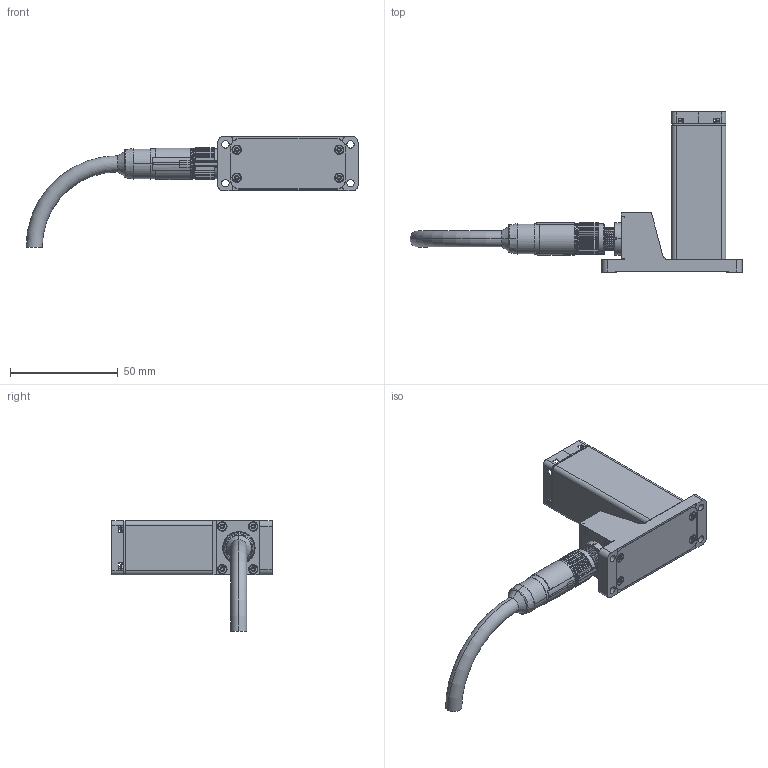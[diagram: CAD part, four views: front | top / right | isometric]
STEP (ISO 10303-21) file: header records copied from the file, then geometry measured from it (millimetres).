
FILE_DESCRIPTION((''),'2;1');
FILE_NAME('D000302828_A','2020-03-12T09:41:57',('scheu-1'),(''),'CREO PARAMETRIC BY PTC INC, 2018260','CREO PARAMETRIC BY PTC INC, 2018260','');
FILE_SCHEMA(('CONFIG_CONTROL_DESIGN'));
Products named in the file (1): D000302828_A
Bounding box: 154 x 74.45 x 51.35 mm (x, y, z)
Volume: 68546.9 mm3; surface area: 21928.4 mm2
Topology: 1 solids, 1 shells, 1183 faces, 3072 edges, 1928 vertices
Faces by surface type: cylinder 450, plane 412, bspline 132, cone 108, torus 63, sphere 18
Entity records: 63044 total; most frequent: CARTESIAN_POINT 34820, ORIENTED_EDGE 6140, DIRECTION 5589, EDGE_CURVE 3070, AXIS2_PLACEMENT_3D 2152, VERTEX_POINT 1928, EDGE_LOOP 1310, VECTOR 1285
